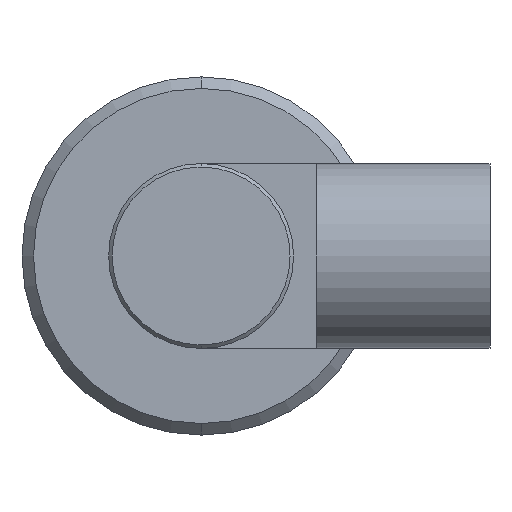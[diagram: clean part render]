
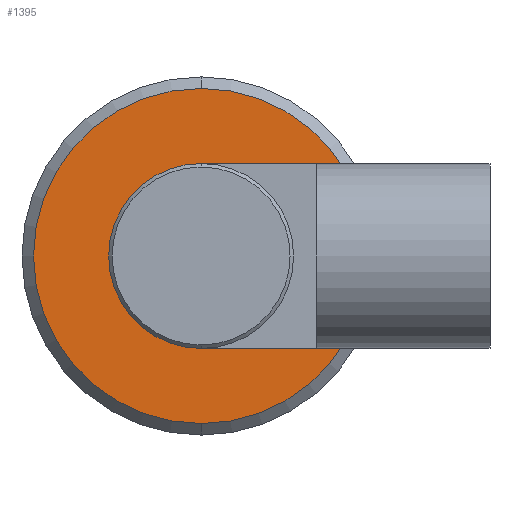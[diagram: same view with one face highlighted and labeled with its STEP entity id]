
A CAD part, left-side view. The second image highlights one B-rep face of the part: STEP entity #1395.
In plain terms, the highlighted planar face has unit normal (-1, 0, 0).
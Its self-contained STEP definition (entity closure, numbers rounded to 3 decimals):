
#6 = EDGE_CURVE ( 'NONE', #877, #1533, #431, .T. ) ;
#14 = AXIS2_PLACEMENT_3D ( 'NONE', #858, #274, #1102 ) ;
#16 = PLANE ( 'NONE',  #573 ) ;
#20 = DIRECTION ( 'NONE',  ( 0., 0., 1. ) ) ;
#40 = DIRECTION ( 'NONE',  ( -1., 0., 0. ) ) ;
#149 = CARTESIAN_POINT ( 'NONE',  ( -24.026, 0., 0. ) ) ;
#247 = EDGE_LOOP ( 'NONE', ( #380, #981 ) ) ;
#274 = DIRECTION ( 'NONE',  ( -1., 0., 0. ) ) ;
#373 = ORIENTED_EDGE ( 'NONE', *, *, #6, .T. ) ;
#380 = ORIENTED_EDGE ( 'NONE', *, *, #409, .F. ) ;
#409 = EDGE_CURVE ( 'NONE', #1328, #588, #1270, .T. ) ;
#431 = CIRCLE ( 'NONE', #1234, 14.5 ) ;
#535 = DIRECTION ( 'NONE',  ( 0., 0., 1. ) ) ;
#573 = AXIS2_PLACEMENT_3D ( 'NONE', #1424, #711, #1085 ) ;
#588 = VERTEX_POINT ( 'NONE', #1031 ) ;
#625 = AXIS2_PLACEMENT_3D ( 'NONE', #149, #1219, #20 ) ;
#629 = CARTESIAN_POINT ( 'NONE',  ( -24.026, 0., 0. ) ) ;
#660 = CIRCLE ( 'NONE', #14, 8. ) ;
#711 = DIRECTION ( 'NONE',  ( 1., 0., 0. ) ) ;
#738 = CIRCLE ( 'NONE', #625, 14.5 ) ;
#754 = DIRECTION ( 'NONE',  ( 0., 0., 1. ) ) ;
#775 = FACE_OUTER_BOUND ( 'NONE', #982, .T. ) ;
#821 = CARTESIAN_POINT ( 'NONE',  ( -24.026, 0., 8. ) ) ;
#858 = CARTESIAN_POINT ( 'NONE',  ( -24.026, 0., 0. ) ) ;
#870 = AXIS2_PLACEMENT_3D ( 'NONE', #629, #40, #754 ) ;
#873 = CARTESIAN_POINT ( 'NONE',  ( -24.026, 0., -14.5 ) ) ;
#877 = VERTEX_POINT ( 'NONE', #949 ) ;
#949 = CARTESIAN_POINT ( 'NONE',  ( -24.026, 0., 14.5 ) ) ;
#981 = ORIENTED_EDGE ( 'NONE', *, *, #1492, .F. ) ;
#982 = EDGE_LOOP ( 'NONE', ( #1384, #373 ) ) ;
#1031 = CARTESIAN_POINT ( 'NONE',  ( -24.026, 0., -8. ) ) ;
#1085 = DIRECTION ( 'NONE',  ( 0., 0., -1. ) ) ;
#1102 = DIRECTION ( 'NONE',  ( 0., 0., 1. ) ) ;
#1117 = FACE_BOUND ( 'NONE', #247, .T. ) ;
#1219 = DIRECTION ( 'NONE',  ( -1., 0., 0. ) ) ;
#1234 = AXIS2_PLACEMENT_3D ( 'NONE', #1253, #1362, #535 ) ;
#1253 = CARTESIAN_POINT ( 'NONE',  ( -24.026, 0., 0. ) ) ;
#1270 = CIRCLE ( 'NONE', #870, 8. ) ;
#1328 = VERTEX_POINT ( 'NONE', #821 ) ;
#1362 = DIRECTION ( 'NONE',  ( -1., 0., 0. ) ) ;
#1384 = ORIENTED_EDGE ( 'NONE', *, *, #1464, .T. ) ;
#1395 = ADVANCED_FACE ( 'NONE', ( #1117, #775 ), #16, .F. ) ;
#1424 = CARTESIAN_POINT ( 'NONE',  ( -24.026, 8., 0. ) ) ;
#1464 = EDGE_CURVE ( 'NONE', #1533, #877, #738, .T. ) ;
#1492 = EDGE_CURVE ( 'NONE', #588, #1328, #660, .T. ) ;
#1533 = VERTEX_POINT ( 'NONE', #873 ) ;
